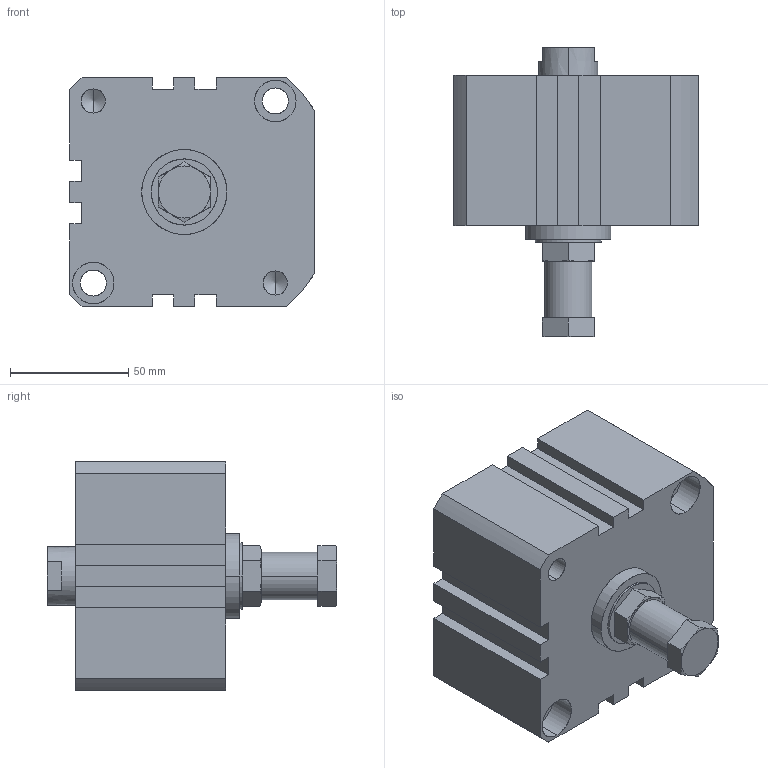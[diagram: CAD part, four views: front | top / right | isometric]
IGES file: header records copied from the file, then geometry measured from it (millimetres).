
Start section: SolidWorks IGES file using analytic representation for surfaces
Global section: file name: C:\Users\Toshiba\Desktop\XGA2-80-10.IGS; native system: SolidWorks 2014; preprocessor: SolidWorks 2014; author: Toshiba; date: 160524.104132; units: millimetre
Bounding box: 103.5 x 122.5 x 97 mm (x, y, z)
Surface area: 66101.6 mm2 (no closed solid volume)
Topology: 0 solids, 0 shells, 147 faces, 2639 edges, 2633 vertices
Faces by surface type: bspline 76, revolution 71
